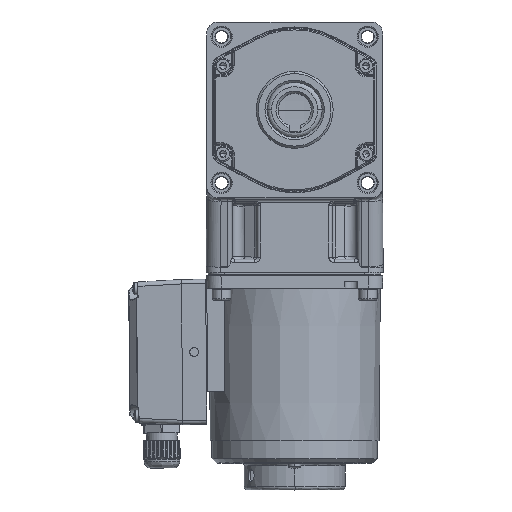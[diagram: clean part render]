
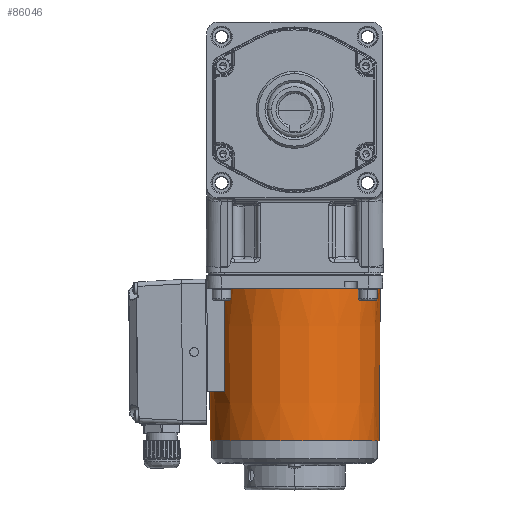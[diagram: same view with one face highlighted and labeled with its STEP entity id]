
A CAD part, top view. The second image highlights one B-rep face of the part: STEP entity #86046.
In plain terms, the highlighted conical face has half-angle 0.47 degrees and reference radius 38.947 mm.
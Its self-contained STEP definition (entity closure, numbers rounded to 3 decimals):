
#1282 = DIRECTION ( 'NONE',  ( 0., -1., -0.008 ) ) ;
#2802 =( BOUNDED_CURVE ( )  B_SPLINE_CURVE ( 3, ( #12021, #77917, #85302, #41137 ),
 .UNSPECIFIED., .F., .F. ) 
 B_SPLINE_CURVE_WITH_KNOTS ( ( 4, 4 ),
 ( 2.498, 2.502 ),
 .UNSPECIFIED. ) 
 CURVE ( )  GEOMETRIC_REPRESENTATION_ITEM ( )  RATIONAL_B_SPLINE_CURVE ( ( 1., 1., 1., 1. ) ) 
 REPRESENTATION_ITEM ( '' )  );
#2866 = VERTEX_POINT ( 'NONE', #73172 ) ;
#3596 = ORIENTED_EDGE ( 'NONE', *, *, #73622, .T. ) ;
#6114 = AXIS2_PLACEMENT_3D ( 'NONE', #36222, #29302, #7353 ) ;
#6841 = DIRECTION ( 'NONE',  ( 0., -1., 0.008 ) ) ;
#6910 = CARTESIAN_POINT ( 'NONE',  ( 0., 69.5, 38.377 ) ) ;
#7353 = DIRECTION ( 'NONE',  ( 0., 0., -1. ) ) ;
#12021 = CARTESIAN_POINT ( 'NONE',  ( -22., 0., 32.138 ) ) ;
#13115 = ORIENTED_EDGE ( 'NONE', *, *, #32801, .F. ) ;
#14209 = CARTESIAN_POINT ( 'NONE',  ( 0., 0., -38.947 ) ) ;
#16699 = CARTESIAN_POINT ( 'NONE',  ( 0., 47., 0. ) ) ;
#24061 = DIRECTION ( 'NONE',  ( 0., 0., -1. ) ) ;
#26589 = CARTESIAN_POINT ( 'NONE',  ( 0., 69.5, -38.377 ) ) ;
#27093 = ORIENTED_EDGE ( 'NONE', *, *, #87075, .T. ) ;
#27591 = VECTOR ( 'NONE', #6841, 1000. ) ;
#29302 = DIRECTION ( 'NONE',  ( 0., -1., 0. ) ) ;
#29677 = CARTESIAN_POINT ( 'NONE',  ( 0., 0., 0. ) ) ;
#30025 = EDGE_LOOP ( 'NONE', ( #13115, #3596, #66924, #40589, #87930, #27093 ) ) ;
#32801 = EDGE_CURVE ( 'NONE', #60727, #2866, #91437, .T. ) ;
#36222 = CARTESIAN_POINT ( 'NONE',  ( 0., 0., 0. ) ) ;
#36903 = DIRECTION ( 'NONE',  ( 0., 0., -1. ) ) ;
#40580 = CIRCLE ( 'NONE', #66874, 38.377 ) ;
#40589 = ORIENTED_EDGE ( 'NONE', *, *, #91571, .T. ) ;
#41017 = CARTESIAN_POINT ( 'NONE',  ( 0., 69.5, 0. ) ) ;
#41137 = CARTESIAN_POINT ( 'NONE',  ( -21.59, 47., 31.951 ) ) ;
#43134 = LINE ( 'NONE', #44719, #51817 ) ;
#44719 = CARTESIAN_POINT ( 'NONE',  ( 0., 0., -38.947 ) ) ;
#48294 = DIRECTION ( 'NONE',  ( 0., 0., -1. ) ) ;
#51136 = VERTEX_POINT ( 'NONE', #14209 ) ;
#51817 = VECTOR ( 'NONE', #1282, 1000. ) ;
#52408 = VERTEX_POINT ( 'NONE', #53772 ) ;
#53772 = CARTESIAN_POINT ( 'NONE',  ( -22., 0., 32.138 ) ) ;
#53800 = AXIS2_PLACEMENT_3D ( 'NONE', #29677, #80975, #36903 ) ;
#54077 = EDGE_CURVE ( 'NONE', #91442, #51136, #43134, .T. ) ;
#60727 = VERTEX_POINT ( 'NONE', #6910 ) ;
#61078 = AXIS2_PLACEMENT_3D ( 'NONE', #16699, #67741, #24061 ) ;
#66536 = VERTEX_POINT ( 'NONE', #85693 ) ;
#66874 = AXIS2_PLACEMENT_3D ( 'NONE', #41017, #92577, #48294 ) ;
#66924 = ORIENTED_EDGE ( 'NONE', *, *, #54077, .T. ) ;
#67337 = CIRCLE ( 'NONE', #61078, 38.561 ) ;
#67741 = DIRECTION ( 'NONE',  ( 0., 1., 0. ) ) ;
#69134 = FACE_OUTER_BOUND ( 'NONE', #30025, .T. ) ;
#70322 = CIRCLE ( 'NONE', #53800, 38.947 ) ;
#73172 = CARTESIAN_POINT ( 'NONE',  ( 0., 47., 38.561 ) ) ;
#73622 = EDGE_CURVE ( 'NONE', #60727, #91442, #40580, .T. ) ;
#77917 = CARTESIAN_POINT ( 'NONE',  ( -21.863, 15.712, 32.076 ) ) ;
#80975 = DIRECTION ( 'NONE',  ( 0., 1., 0. ) ) ;
#84650 = EDGE_CURVE ( 'NONE', #52408, #66536, #2802, .T. ) ;
#85302 = CARTESIAN_POINT ( 'NONE',  ( -21.726, 31.379, 32.013 ) ) ;
#85693 = CARTESIAN_POINT ( 'NONE',  ( -21.59, 47., 31.951 ) ) ;
#86046 = ADVANCED_FACE ( 'NONE', ( #69134 ), #93238, .T. ) ;
#87075 = EDGE_CURVE ( 'NONE', #66536, #2866, #67337, .T. ) ;
#87930 = ORIENTED_EDGE ( 'NONE', *, *, #84650, .T. ) ;
#91437 = LINE ( 'NONE', #94520, #27591 ) ;
#91442 = VERTEX_POINT ( 'NONE', #26589 ) ;
#91571 = EDGE_CURVE ( 'NONE', #51136, #52408, #70322, .T. ) ;
#92577 = DIRECTION ( 'NONE',  ( 0., -1., 0. ) ) ;
#93238 = CONICAL_SURFACE ( 'NONE', #6114, 38.947, 0.008 ) ;
#94520 = CARTESIAN_POINT ( 'NONE',  ( 0., 0., 38.947 ) ) ;
